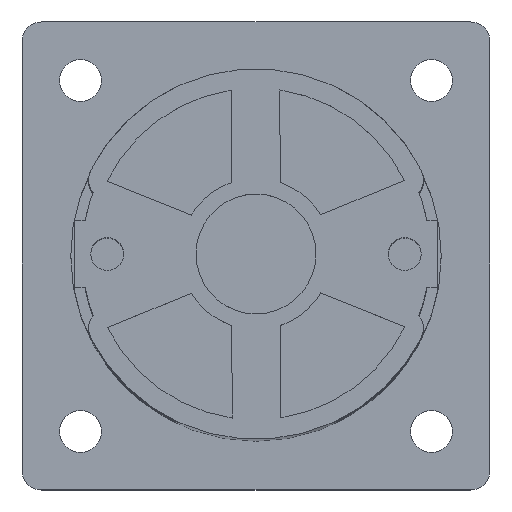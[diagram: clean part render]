
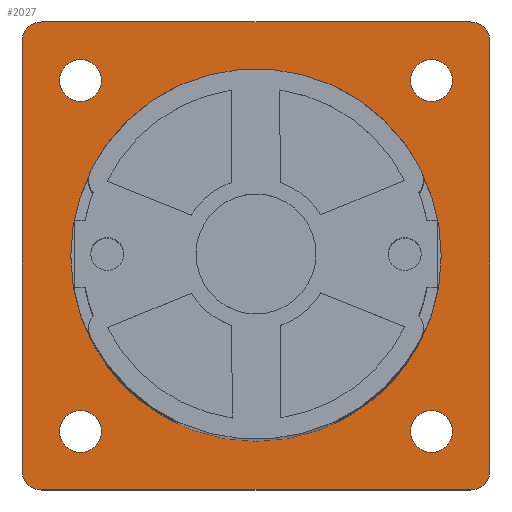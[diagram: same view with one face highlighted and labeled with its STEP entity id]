
A CAD part, top view. The second image highlights one B-rep face of the part: STEP entity #2027.
In plain terms, the highlighted planar face has unit normal (0, 0, 1).
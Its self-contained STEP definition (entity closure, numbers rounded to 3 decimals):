
#497=FACE_BOUND('',#5595,.T.);
#498=FACE_BOUND('',#5596,.T.);
#499=FACE_BOUND('',#5597,.T.);
#500=FACE_BOUND('',#5598,.T.);
#501=FACE_BOUND('',#5599,.T.);
#502=FACE_BOUND('',#5600,.T.);
#890=CIRCLE('',#24192,2.15);
#894=CIRCLE('',#24199,2.15);
#898=CIRCLE('',#24206,2.15);
#902=CIRCLE('',#24213,2.15);
#943=CIRCLE('',#24295,19.);
#988=CIRCLE('',#24390,2.);
#989=CIRCLE('',#24392,2.);
#990=CIRCLE('',#24394,2.);
#991=CIRCLE('',#24396,2.);
#2027=ADVANCED_FACE('',(#497,#498,#499,#500,#501,#502),#3298,.F.);
#3298=PLANE('',#24403);
#5595=EDGE_LOOP('',(#7726,#7727,#7728,#7729,#7730,#7731,#7732,#7733));
#5596=EDGE_LOOP('',(#7734));
#5597=EDGE_LOOP('',(#7735));
#5598=EDGE_LOOP('',(#7736));
#5599=EDGE_LOOP('',(#7737));
#5600=EDGE_LOOP('',(#7738));
#7726=ORIENTED_EDGE('',*,*,#16694,.F.);
#7727=ORIENTED_EDGE('',*,*,#16681,.F.);
#7728=ORIENTED_EDGE('',*,*,#16691,.F.);
#7729=ORIENTED_EDGE('',*,*,#16684,.F.);
#7730=ORIENTED_EDGE('',*,*,#16692,.F.);
#7731=ORIENTED_EDGE('',*,*,#16687,.F.);
#7732=ORIENTED_EDGE('',*,*,#16693,.F.);
#7733=ORIENTED_EDGE('',*,*,#16690,.F.);
#7734=ORIENTED_EDGE('',*,*,#16550,.F.);
#7735=ORIENTED_EDGE('',*,*,#16385,.T.);
#7736=ORIENTED_EDGE('',*,*,#16381,.T.);
#7737=ORIENTED_EDGE('',*,*,#16377,.T.);
#7738=ORIENTED_EDGE('',*,*,#16373,.T.);
#13988=VERTEX_POINT('',#32995);
#13992=VERTEX_POINT('',#33006);
#13996=VERTEX_POINT('',#33017);
#14000=VERTEX_POINT('',#33028);
#14161=VERTEX_POINT('',#33355);
#14250=VERTEX_POINT('',#33623);
#14251=VERTEX_POINT('',#33625);
#14252=VERTEX_POINT('',#33629);
#14253=VERTEX_POINT('',#33631);
#14254=VERTEX_POINT('',#33635);
#14255=VERTEX_POINT('',#33637);
#14256=VERTEX_POINT('',#33641);
#14257=VERTEX_POINT('',#33643);
#16373=EDGE_CURVE('',#13988,#13988,#890,.T.);
#16377=EDGE_CURVE('',#13992,#13992,#894,.T.);
#16381=EDGE_CURVE('',#13996,#13996,#898,.T.);
#16385=EDGE_CURVE('',#14000,#14000,#902,.T.);
#16550=EDGE_CURVE('',#14161,#14161,#943,.T.);
#16681=EDGE_CURVE('',#14251,#14250,#988,.T.);
#16684=EDGE_CURVE('',#14253,#14252,#989,.T.);
#16687=EDGE_CURVE('',#14255,#14254,#990,.T.);
#16690=EDGE_CURVE('',#14257,#14256,#991,.T.);
#16691=EDGE_CURVE('',#14252,#14251,#19932,.T.);
#16692=EDGE_CURVE('',#14254,#14253,#19933,.T.);
#16693=EDGE_CURVE('',#14256,#14255,#19934,.T.);
#16694=EDGE_CURVE('',#14250,#14257,#19935,.T.);
#19932=LINE('',#33646,#22153);
#19933=LINE('',#33648,#22154);
#19934=LINE('',#33650,#22155);
#19935=LINE('',#33652,#22156);
#22153=VECTOR('',#27132,1.);
#22154=VECTOR('',#27135,1.);
#22155=VECTOR('',#27138,1.);
#22156=VECTOR('',#27141,1.);
#24192=AXIS2_PLACEMENT_3D('',#32994,#26544,#26545);
#24199=AXIS2_PLACEMENT_3D('',#33005,#26558,#26559);
#24206=AXIS2_PLACEMENT_3D('',#33016,#26572,#26573);
#24213=AXIS2_PLACEMENT_3D('',#33027,#26586,#26587);
#24295=AXIS2_PLACEMENT_3D('',#33354,#26834,#26835);
#24390=AXIS2_PLACEMENT_3D('',#33626,#27110,#27111);
#24392=AXIS2_PLACEMENT_3D('',#33632,#27116,#27117);
#24394=AXIS2_PLACEMENT_3D('',#33638,#27122,#27123);
#24396=AXIS2_PLACEMENT_3D('',#33644,#27128,#27129);
#24403=AXIS2_PLACEMENT_3D('',#33655,#27146,#27147);
#26544=DIRECTION('',(0.,0.,-1.));
#26545=DIRECTION('',(-1.,0.,0.));
#26558=DIRECTION('',(0.,0.,-1.));
#26559=DIRECTION('',(-1.,0.,0.));
#26572=DIRECTION('',(0.,0.,-1.));
#26573=DIRECTION('',(-1.,0.,0.));
#26586=DIRECTION('',(0.,0.,-1.));
#26587=DIRECTION('',(-1.,0.,0.));
#26834=DIRECTION('',(0.,0.,1.));
#26835=DIRECTION('',(-1.,0.,0.));
#27110=DIRECTION('',(0.,0.,-1.));
#27111=DIRECTION('',(1.,0.,0.));
#27116=DIRECTION('',(0.,0.,-1.));
#27117=DIRECTION('',(1.,0.,0.));
#27122=DIRECTION('',(0.,0.,-1.));
#27123=DIRECTION('',(1.,0.,0.));
#27128=DIRECTION('',(0.,0.,-1.));
#27129=DIRECTION('',(1.,0.,0.));
#27132=DIRECTION('',(0.,-1.,0.));
#27135=DIRECTION('',(1.,0.,0.));
#27138=DIRECTION('',(0.,1.,0.));
#27141=DIRECTION('',(-1.,0.,0.));
#27146=DIRECTION('',(0.,0.,-1.));
#27147=DIRECTION('',(-1.,0.,0.));
#32994=CARTESIAN_POINT('',(18.,-18.,2.5));
#32995=CARTESIAN_POINT('',(15.85,-18.,2.5));
#33005=CARTESIAN_POINT('',(18.,18.,2.5));
#33006=CARTESIAN_POINT('',(15.85,18.,2.5));
#33016=CARTESIAN_POINT('',(-18.,18.,2.5));
#33017=CARTESIAN_POINT('',(-20.15,18.,2.5));
#33027=CARTESIAN_POINT('',(-18.,-18.,2.5));
#33028=CARTESIAN_POINT('',(-20.15,-18.,2.5));
#33354=CARTESIAN_POINT('',(0.,0.,2.5));
#33355=CARTESIAN_POINT('',(-19.,0.,2.5));
#33623=CARTESIAN_POINT('',(22.,-24.,2.5));
#33625=CARTESIAN_POINT('',(24.,-22.,2.5));
#33626=CARTESIAN_POINT('',(22.,-22.,2.5));
#33629=CARTESIAN_POINT('',(24.,22.,2.5));
#33631=CARTESIAN_POINT('',(22.,24.,2.5));
#33632=CARTESIAN_POINT('',(22.,22.,2.5));
#33635=CARTESIAN_POINT('',(-22.,24.,2.5));
#33637=CARTESIAN_POINT('',(-24.,22.,2.5));
#33638=CARTESIAN_POINT('',(-22.,22.,2.5));
#33641=CARTESIAN_POINT('',(-24.,-22.,2.5));
#33643=CARTESIAN_POINT('',(-22.,-24.,2.5));
#33644=CARTESIAN_POINT('',(-22.,-22.,2.5));
#33646=CARTESIAN_POINT('',(24.,22.,2.5));
#33648=CARTESIAN_POINT('',(-22.,24.,2.5));
#33650=CARTESIAN_POINT('',(-24.,-22.,2.5));
#33652=CARTESIAN_POINT('',(22.,-24.,2.5));
#33655=CARTESIAN_POINT('',(-22.,-22.,2.5));
